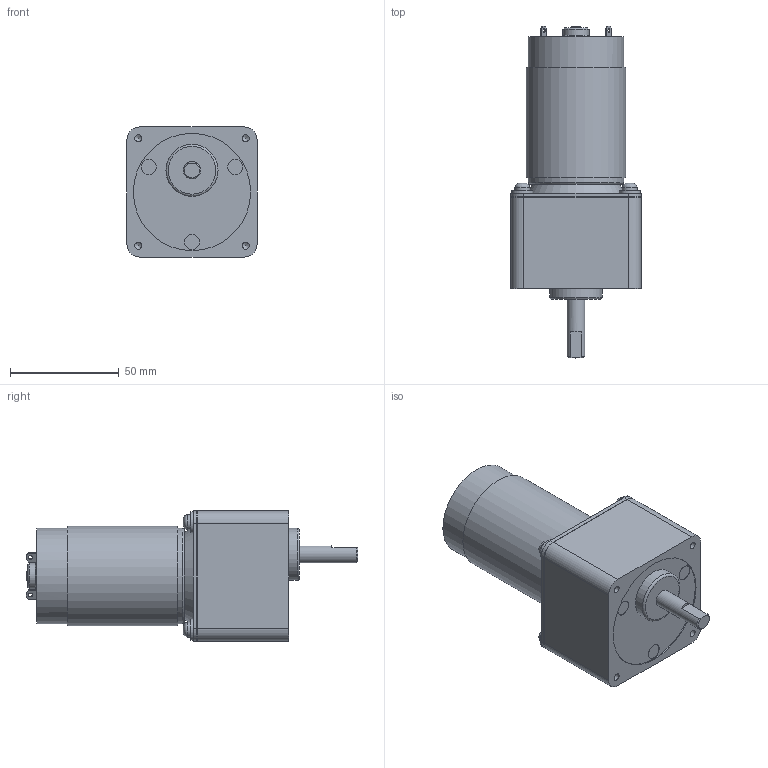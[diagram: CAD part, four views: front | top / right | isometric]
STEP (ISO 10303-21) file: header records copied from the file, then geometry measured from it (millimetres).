
FILE_DESCRIPTION(/* description */ (''),/* implementation_level */ '2;1');
FILE_NAME(/* name */ 'TP-4668-CM-4.stp',/* time_stamp */ '2024-05-31T17:24:17+09:00',/* author */ ('user'),/* organization */ (''),/* preprocessor_version */ 'ST-DEVELOPER v20',/* originating_system */ 'Autodesk Inventor 2024',/* authorisation */ '');
FILE_SCHEMA (('AUTOMOTIVE_DESIGN { 1 0 10303 214 3 1 1 }'));
Length unit declared in the file: millimetre
Products named in the file (3): TP-4668-CM-50~180; cm_4; tp_4668
Assembly tree (2 placements, depth 2):
  TP-4668-CM-50~180
    cm_4
    tp_4668
Bounding box: 60 x 153 x 60 mm (x, y, z)
Volume: 275142.3 mm3; surface area: 33414.1 mm2
Topology: 2 solids, 2 shells, 137 faces, 306 edges, 201 vertices
Faces by surface type: plane 61, cylinder 56, cone 12, bspline 4, torus 4
Full cylindrical faces by diameter (mm): 2 x2, 2.459 x3, 3.242 x4, 4 x2, 6.8 x4, 7 x3, 8 x1, 9.8 x4, 12 x2, 24 x1, 42 x1, 44 x1, 54 x1
Entity records: 4021 total; most frequent: CARTESIAN_POINT 750, DIRECTION 720, ORIENTED_EDGE 598, EDGE_CURVE 299, AXIS2_PLACEMENT_3D 285, VERTEX_POINT 201, EDGE_LOOP 176, LINE 150
